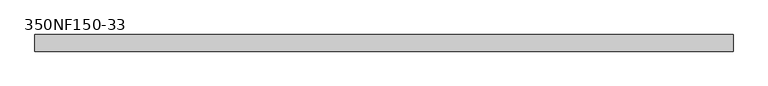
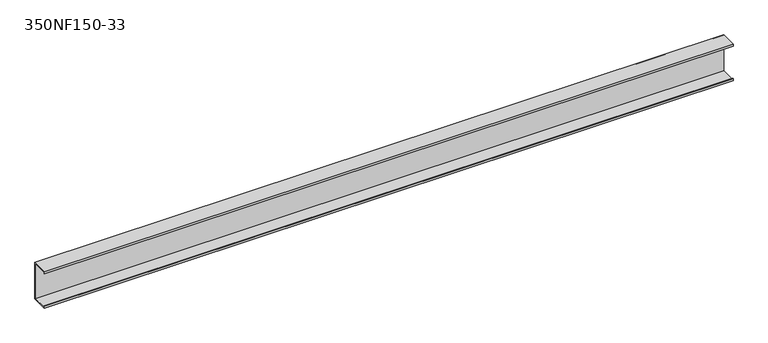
"""IFC4 building model written with IfcOpenShell, lengths in millimetres: beam geometry, BIMSF-SSMA-S : 350NF150-33."""

from ifc_helpers import new_model, si_unit, frame, origin, place, context, project, spatial, polyline, outline, extrude, source, transform, mapped, element, save


def beam_350nf150_33_edcdebb8(model_context):
    return source(origin(), model_context, "Body", "SweptSolid", [
        extrude(outline(polyline([(19.05, 44.45), (19.05, -44.45), (-19.05, -44.45), (-19.05, -39.6748), (-18.1676842, -39.6748), (-18.1676842, -43.5676842), (18.1676842, -43.5676842), (18.1676842, 43.5676842), (-18.1676842, 43.5676842), (-18.1676842, 39.6748), (-19.05, 39.6748), (-19.05, 44.45), (19.05, 44.45)])), frame((-800.1, 0.0, 0.0), z_axis=(1.0, 0.0, 0.0), x_axis=(0.0, 1.0, 0.0)), (0.0, 0.0, 1.0), 1600.2),
    ])


if __name__ == "__main__":
    model = new_model("IFC4")
    model_context = context("Model", 3, world=origin())
    ifc_project = project(units=[si_unit("LENGTHUNIT", "METRE", prefix="MILLI")], contexts=[model_context])
    site = spatial("IfcSite", under=ifc_project)
    building = spatial("IfcBuilding", under=site)
    placement = place(None, origin())
    beam_350nf150_33_shape = beam_350nf150_33_edcdebb8(model_context)
    element("IfcBeam", 1, ObjectType="BIMSF-SSMA-S : 350NF150-33", at=placement, inside=building, context=model_context, shape_type="MappedRepresentation", body=[
        mapped(beam_350nf150_33_shape, transform((0.0, 0.0, 0.0), x_axis=(1.0, 0.0, 0.0), y_axis=(0.0, 1.0, 0.0), z_axis=(0.0, 0.0, 1.0))),
    ])
    save(model, "model.ifc")
